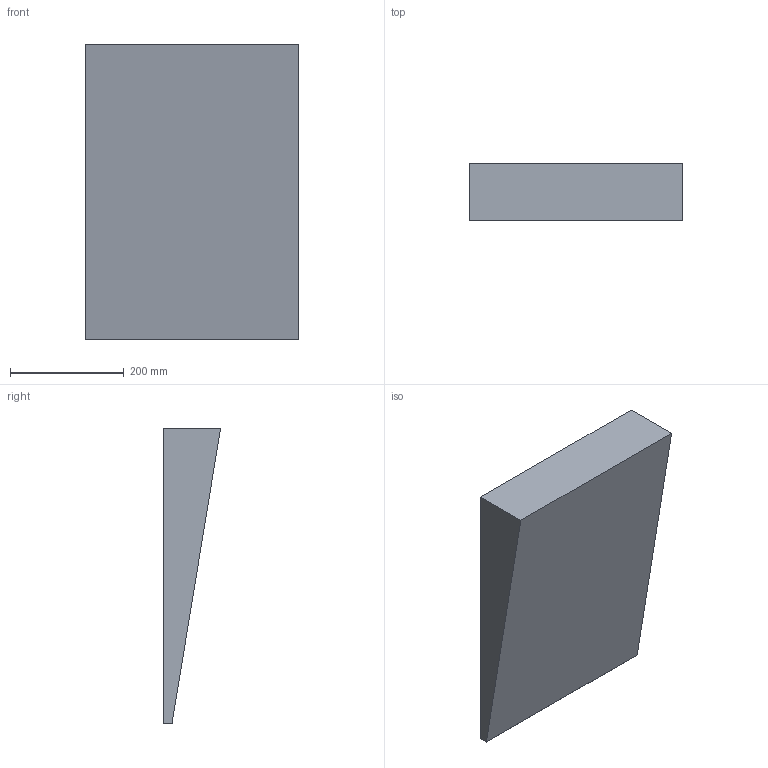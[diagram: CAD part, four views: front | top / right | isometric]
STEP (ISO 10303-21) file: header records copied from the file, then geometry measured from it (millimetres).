
FILE_DESCRIPTION(/* description */ (''),/* implementation_level */ '2;1');
FILE_NAME(/* name */ 'Sculpt Wall Art Mini Triangle',/* time_stamp */ '2021-01-26T12:41:52+01:00',/* author */ (''),/* organization */ (''),/* preprocessor_version */ 'ST-DEVELOPER v15',/* originating_system */ '',/* authorisation */ '');
FILE_SCHEMA (('AUTOMOTIVE_DESIGN'));
Length unit declared in the file: millimetre
Products named in the file (1): Document
Bounding box: 375 x 100.37 x 519.95 mm (x, y, z)
Volume: 11247923.6 mm3; surface area: 495825.9 mm2
Topology: 1 solids, 1 shells, 7 faces, 15 edges, 10 vertices
Faces by surface type: plane 5, bspline 2
Entity records: 188 total; most frequent: CARTESIAN_POINT 55, ORIENTED_EDGE 30, EDGE_CURVE 15, B_SPLINE_CURVE_WITH_KNOTS 15, VERTEX_POINT 10, DIRECTION 9, ADVANCED_FACE 7, FACE_OUTER_BOUND 7
